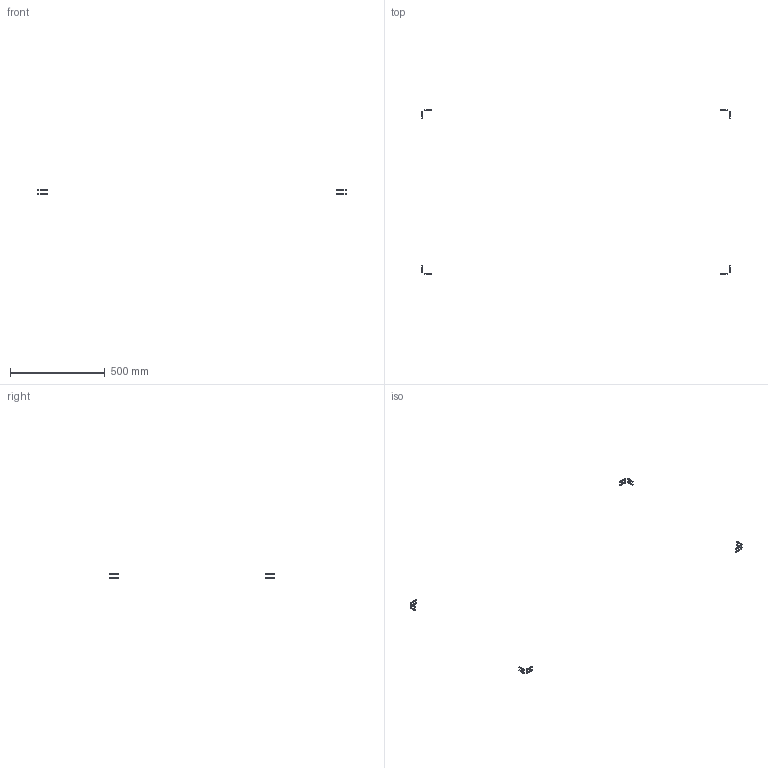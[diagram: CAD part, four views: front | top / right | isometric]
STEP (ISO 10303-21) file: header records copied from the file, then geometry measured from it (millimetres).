
FILE_DESCRIPTION(/* description */ (''),/* implementation_level */ '2;1');
FILE_NAME(/* name */ '2.frame-gantry#2.2#HNTPZ5-5',/* time_stamp */ '2014-12-01T20:11:40+01:00',/* author */ (''),/* organization */ (''),/* preprocessor_version */ 'ST-DEVELOPER v14',/* originating_system */ '',/* authorisation */ '');
FILE_SCHEMA (('AUTOMOTIVE_DESIGN'));
Length unit declared in the file: millimetre
Products named in the file (2): Document; nut tslot, post, M5
Assembly tree (16 placements, depth 2):
  Document
    nut tslot, post, M5  x16
Bounding box: 1630.4 x 870.4 x 28.3 mm (x, y, z)
Volume: 10080.4 mm3; surface area: 13424.3 mm2
Topology: 32 solids, 32 shells, 416 faces, 1152 edges, 768 vertices
Faces by surface type: plane 352, bspline 64
Entity records: 16353 total; most frequent: CARTESIAN_POINT 7771, B_SPLINE_CURVE_WITH_KNOTS 1700, ORIENTED_EDGE 1224, PCURVE 1224, DEFINITIONAL_REPRESENTATION 1224, SURFACE_CURVE 612, EDGE_CURVE 612, VERTEX_POINT 408
